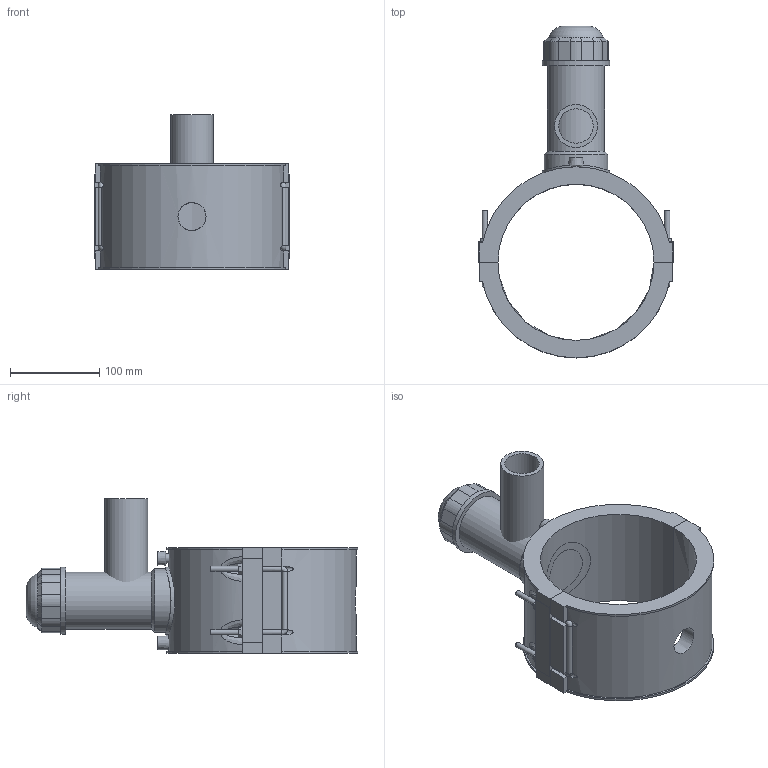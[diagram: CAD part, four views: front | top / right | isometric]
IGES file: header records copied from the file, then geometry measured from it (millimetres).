
Global section: file name: 5963DBP3060015.ipt; native system: Autodesk Inventor 2019; preprocessor: unknown; author: KIM; date: 20210830.101655; units: inch
Bounding box: 217.9 x 371.08 x 173.1 mm (x, y, z)
Volume: 1689119 mm3; surface area: 291122.8 mm2
Topology: 3 solids, 4 shells, 200 faces, 501 edges, 325 vertices
Faces by surface type: plane 125, cylinder 35, revolution 21, cone 15, bspline 4
Full cylindrical faces by diameter (mm): 4 x2, 6 x8, 48.1 x1, 63.78 x1, 71.283 x1, 75.035 x2
